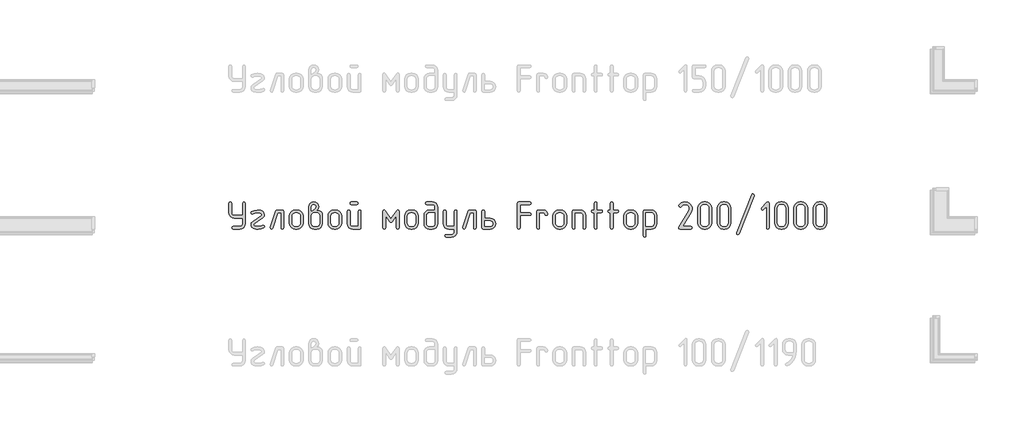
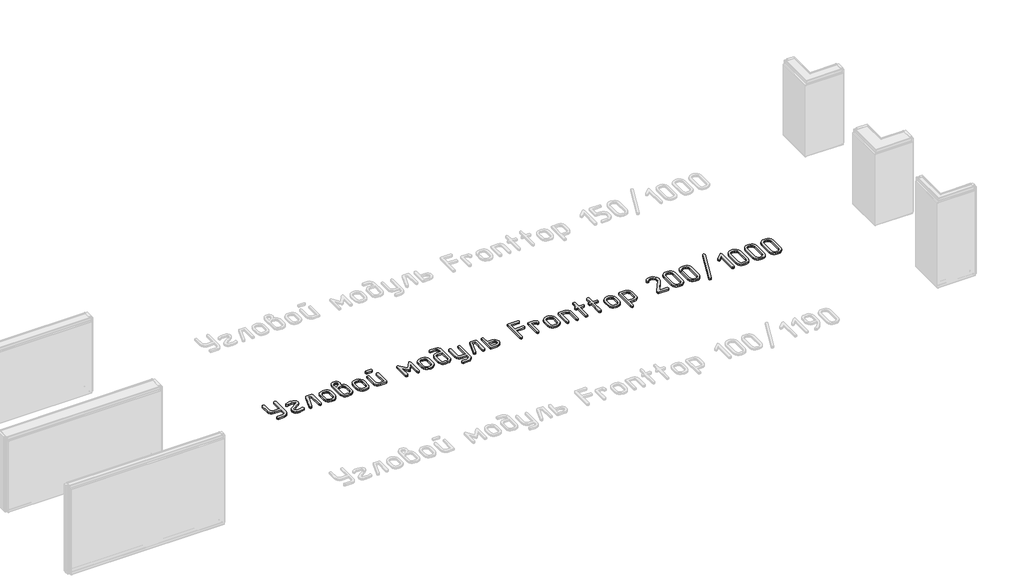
# One storey, part 31 of 37: 1 proxy.
"""IFC4 building model written with IfcOpenShell, lengths in millimetres."""

from ifc_helpers import new_model, si_unit, origin, origin_with_axes, place, context, project, spatial, polyline, outline, extrude, element, save

model = new_model("IFC4")

# Units and contexts
model_context = context("Model", 3, world=origin())
ifc_project = project(units=[si_unit("LENGTHUNIT", "METRE", prefix="MILLI")], contexts=[model_context])

# Site, building, storey
site = spatial("IfcSite", under=ifc_project)
building = spatial("IfcBuilding", under=site)
storey = spatial("IfcBuildingStorey", under=building, Name="Этаж 01", Elevation=0.0)

# Proxy
placement = place(None, origin())
element("IfcBuildingElementProxy", 1, Name="300 мм ГОСТ 2.304", ObjectType="300 мм ГОСТ 2.304", at=placement, inside=storey, context=model_context, shape_type="SweptSolid", body=[
    extrude(outline(polyline([(64282.5947081, -23608.7261154), (64192.9398643, -23608.7261154), (64169.869135, -23604.3522505), (64150.5152523, -23591.2306559), (64137.3936577, -23571.8767732), (64133.0197928, -23548.8060439), (64133.0197928, -23444.2838139), (64137.4124296, -23433.1332743), (64148.3377058, -23428.9659009), (64158.6247356, -23432.9080109), (64163.205092, -23444.2838139), (64163.205092, -23548.8060439), (64165.3357086, -23560.4540402), (64171.7275583, -23570.0183499), (64181.2918679, -23576.4101996), (64192.9398643, -23578.5408162), (64282.5947081, -23578.5408162), (64282.5947081, -23444.2838139), (64286.949801, -23433.1332743), (64297.4620942, -23428.9659009), (64307.9368436, -23432.9080109), (64312.3294804, -23444.2838139), (64312.3294804, -23668.19566), (64307.9556155, -23691.6042844), (64294.8340209, -23711.0707988), (64275.8180333, -23723.8544983), (64252.8599358, -23728.1157314), (64178.0724781, -23728.1157314), (64167.147202, -23723.7606385), (64163.205092, -23713.2483453), (64166.9219385, -23702.736052), (64178.0724781, -23698.3809591), (64252.8599358, -23698.3809591), (64264.2263528, -23696.1940267), (64273.8469783, -23689.6332294), (64280.4077756, -23679.8999722), (64282.5947081, -23668.19566), (64282.5947081, -23608.7261154)])), origin_with_axes(), (0.0, 0.0, 1.0), 20.0),
    extrude(outline(polyline([(64514.9914765, -23714.524838), (64485.4444237, -23725.0746752), (64451.6173658, -23728.5662583), (64430.8180428, -23727.4774851), (64413.0973199, -23724.5866044), (64396.8408093, -23719.4524755), (64384.8643037, -23709.3062353), (64377.4869265, -23695.6496401), (64375.0278008, -23679.984446), (64378.9699108, -23660.7619669), (64391.2467675, -23644.618088), (64486.5331969, -23578.991343), (64491.4139045, -23569.8306304), (64487.5844263, -23560.4071103), (64476.0959915, -23554.0621905), (64442.3815653, -23549.7070976), (64416.2510079, -23552.4290307), (64397.32888, -23560.5948299), (64388.1681673, -23564.1239569), (64377.693418, -23559.5436005), (64373.3007812, -23548.355517), (64379.4579815, -23537.0172579), (64408.0664367, -23524.777945), (64445.0096386, -23520.4228521), (64450.2657853, -23520.4228521), (64479.1370478, -23523.9144352), (64501.85111, -23533.7509382), (64516.7184961, -23549.0313073), (64521.9746427, -23568.9295767), (64517.7134096, -23586.6315276), (64504.9297101, -23602.193476), (64409.5681929, -23668.19566), (64404.3871341, -23679.6090069), (64408.1039806, -23689.8584928), (64417.9029396, -23695.7528858), (64434.3096259, -23697.5174493), (64451.9928049, -23698.3809591), (64478.4612575, -23696.2034127), (64501.0251441, -23687.8686659), (64508.4588371, -23686.1416463), (64519.1588499, -23690.7220026), (64523.3262233, -23701.9100861), (64521.2425366, -23709.1936036), (64514.9914765, -23714.524838)])), origin_with_axes(), (0.0, 0.0, 1.0), 20.0),
    extrude(outline(polyline([(64734.3229662, -23713.2483453), (64730.1555928, -23724.3988849), (64719.45558, -23728.1157314), (64708.9432868, -23724.1736215), (64704.5881939, -23713.2483453), (64704.5881939, -23548.8060439), (64670.0478018, -23548.8060439), (64614.0322964, -23718.0539651), (64608.5884303, -23725.4876581), (64600.5164908, -23728.1157314), (64589.7789341, -23724.1736215), (64585.1985778, -23713.6988721), (64586.0996315, -23708.4427255), (64645.1186493, -23529.133038), (64650.4498837, -23521.5867132), (64659.5355086, -23519.0712716), (64719.45558, -23519.0712716), (64730.6061197, -23522.7881181), (64734.3229662, -23533.9386577), (64734.3229662, -23713.2483453)])), origin_with_axes(), (0.0, 0.0, 1.0), 20.0),
    extrude(outline(polyline([(64945.7702359, -23662.4889865), (64940.9646162, -23687.9812976), (64926.5477569, -23709.3437792), (64905.5231704, -23723.4227434), (64880.143491, -23728.1157314), (64862.1975047, -23728.1157314), (64836.7615094, -23723.4227434), (64815.4177998, -23709.3437792), (64801.0009405, -23687.9812976), (64796.1953207, -23662.4889865), (64796.1953207, -23584.6980165), (64801.0009405, -23559.5436005), (64815.4177998, -23538.2937506), (64837.1744924, -23523.8768913), (64862.1975047, -23519.0712716), (64880.143491, -23519.0712716), (64905.288521, -23523.8862773), (64926.510213, -23538.3312945), (64940.9552302, -23559.5529865), (64945.7702359, -23584.6980165), (64945.7702359, -23662.4889865)]), holes=[polyline([(64916.0354636, -23662.4889865), (64916.0354636, -23584.6980165), (64913.4073903, -23570.9194036), (64905.5231704, -23559.3183371), (64893.9221039, -23551.4341172), (64880.143491, -23548.8060439), (64862.1975047, -23548.8060439), (64848.4282777, -23551.4341172), (64836.8553692, -23559.3183371), (64828.9993072, -23570.9194036), (64826.3806199, -23584.6980165), (64826.3806199, -23662.4889865), (64828.9993072, -23676.2675994), (64836.8553692, -23687.8686659), (64848.4282777, -23695.7528858), (64862.1975047, -23698.3809591), (64880.143491, -23698.3809591), (64893.9221039, -23695.7528858), (64905.5231704, -23687.8686659), (64913.4073903, -23676.2675994), (64916.0354636, -23662.4889865)])]), origin_with_axes(), (0.0, 0.0, 1.0), 20.0),
    extrude(outline(polyline([(65097.2974342, -23519.9723253), (65122.7897453, -23524.2335584), (65142.3501195, -23537.0172579), (65153.5006592, -23555.057104), (65157.2175057, -23578.5408162), (65157.2175057, -23668.19566), (65152.8436408, -23691.6042844), (65139.7220462, -23711.0707988), (65120.5934269, -23723.8544983), (65097.2974342, -23728.1157314), (65067.5626619, -23728.1157314), (65044.4919326, -23723.8544983), (65025.1380499, -23711.0707988), (65012.0164553, -23691.6042844), (65007.6425905, -23668.19566), (65007.6425905, -23483.2543867), (65011.9038236, -23460.3901489), (65024.6875231, -23442.5567943), (65041.4133325, -23432.3636243), (65061.8559884, -23428.9659009), (65081.9607493, -23432.3636243), (65098.573927, -23442.5567943), (65111.0760472, -23460.2775172), (65115.2434206, -23482.8038599), (65111.0760472, -23504.8421318), (65097.2974342, -23519.9723253)]), holes=[polyline([(65127.4827334, -23668.19566), (65127.4827334, -23578.5408162), (65125.295801, -23567.1743991), (65118.7350037, -23557.5537736), (65109.0017464, -23550.9929763), (65097.2974342, -23548.8060439), (65067.5626619, -23548.8060439), (65055.9146656, -23550.9929763), (65046.3503559, -23557.5537736), (65039.9585062, -23567.1743991), (65037.8278896, -23578.5408162), (65037.8278896, -23668.19566), (65039.9585062, -23679.8999722), (65046.3503559, -23689.6332294), (65055.9146656, -23696.1940267), (65067.5626619, -23698.3809591), (65097.2974342, -23698.3809591), (65109.0017464, -23696.1940267), (65118.7350037, -23689.6332294), (65125.295801, -23679.8999722), (65127.4827334, -23668.19566)]), polyline([(65037.8278896, -23529.133038), (65044.8110558, -23525.0032085), (65050.0672025, -23521.248818), (65060.1289688, -23514.0403884), (65067.5626619, -23508.5589783), (65079.8019748, -23497.671246), (65085.5086482, -23483.2543867), (65083.7065408, -23473.1644624), (65078.3002186, -23465.7213834), (65070.4723145, -23461.1316411), (65061.4054616, -23459.601727), (65052.4512404, -23461.1316411), (65044.8110558, -23465.7213834), (65039.5736812, -23473.1644624), (65037.8278896, -23483.2543867), (65037.8278896, -23529.133038)])]), origin_with_axes(), (0.0, 0.0, 1.0), 20.0),
    extrude(outline(polyline([(65368.6647755, -23662.4889865), (65363.8591557, -23687.9812976), (65349.4422964, -23709.3437792), (65328.4177099, -23723.4227434), (65303.0380305, -23728.1157314), (65285.0920442, -23728.1157314), (65259.6560489, -23723.4227434), (65238.3123393, -23709.3437792), (65223.89548, -23687.9812976), (65219.0898602, -23662.4889865), (65219.0898602, -23584.6980165), (65223.89548, -23559.5436005), (65238.3123393, -23538.2937506), (65260.0690319, -23523.8768913), (65285.0920442, -23519.0712716), (65303.0380305, -23519.0712716), (65328.1830605, -23523.8862773), (65349.4047525, -23538.3312945), (65363.8497697, -23559.5529865), (65368.6647755, -23584.6980165), (65368.6647755, -23662.4889865)]), holes=[polyline([(65338.9300032, -23662.4889865), (65338.9300032, -23584.6980165), (65336.3019298, -23570.9194036), (65328.4177099, -23559.3183371), (65316.8166434, -23551.4341172), (65303.0380305, -23548.8060439), (65285.0920442, -23548.8060439), (65271.3228172, -23551.4341172), (65259.7499087, -23559.3183371), (65251.8938467, -23570.9194036), (65249.2751594, -23584.6980165), (65249.2751594, -23662.4889865), (65251.8938467, -23676.2675994), (65259.7499087, -23687.8686659), (65271.3228172, -23695.7528858), (65285.0920442, -23698.3809591), (65303.0380305, -23698.3809591), (65316.8166434, -23695.7528858), (65328.4177099, -23687.8686659), (65336.3019298, -23676.2675994), (65338.9300032, -23662.4889865)])]), origin_with_axes(), (0.0, 0.0, 1.0), 20.0),
    extrude(outline(polyline([(65535.5098868, -23459.1512001), (65475.5898153, -23459.1512001), (65464.6645391, -23454.7961072), (65460.7224291, -23444.2838139), (65464.4392757, -23433.5838012), (65475.5898153, -23428.9659009), (65535.5098868, -23428.9659009), (65546.6604264, -23433.3585378), (65550.3772729, -23444.2838139), (65546.4351629, -23454.5708438), (65535.5098868, -23459.1512001)])), origin_with_axes(), (0.0, 0.0, 1.0), 20.0),
    extrude(outline(polyline([(65580.1120452, -23713.2483453), (65576.3951987, -23724.3988849), (65565.2446591, -23728.1157314), (65490.4572014, -23728.1157314), (65467.3864722, -23723.8544983), (65448.0325894, -23711.0707988), (65434.9109948, -23691.6042844), (65430.53713, -23668.19566), (65430.53713, -23533.9386577), (65434.9297668, -23523.0133815), (65445.855043, -23519.0712716), (65456.1420728, -23522.7881181), (65460.7224291, -23533.9386577), (65460.7224291, -23668.19566), (65462.8530457, -23679.8999722), (65469.2448954, -23689.6332294), (65478.8092051, -23696.1940267), (65490.4572014, -23698.3809591), (65550.3772729, -23698.3809591), (65550.3772729, -23533.9386577), (65554.7323658, -23523.0133815), (65565.2446591, -23519.0712716), (65575.7194084, -23522.7881181), (65580.1120452, -23533.9386577), (65580.1120452, -23713.2483453)])), origin_with_axes(), (0.0, 0.0, 1.0), 20.0),
    extrude(outline(polyline([(65999.1020187, -23713.2483453), (65994.7093818, -23724.1736215), (65984.2346325, -23728.1157314), (65973.4970758, -23724.3988849), (65969.3672464, -23713.2483453), (65969.3672464, -23580.2678358), (65921.6864877, -23647.2461613), (65915.5480594, -23653.1030104), (65909.4471749, -23655.0552934), (65903.121027, -23653.1030104), (65897.207862, -23647.2461613), (65849.9776303, -23580.2678358), (65849.9776303, -23713.2483453), (65845.3972739, -23724.1736215), (65835.1102441, -23728.1157314), (65823.9597045, -23724.3988849), (65819.7923311, -23713.2483453), (65819.7923311, -23533.9386577), (65823.5091776, -23521.0235546), (65832.9326977, -23516.4431983), (65840.666742, -23518.6395167), (65847.349557, -23525.2284719), (65909.4471749, -23612.6306814), (65971.9953197, -23525.2284719), (65978.7532225, -23518.6395167), (65985.9616521, -23516.4431983), (65995.3851721, -23521.0235546), (65999.1020187, -23533.9386577), (65999.1020187, -23713.2483453)])), origin_with_axes(), (0.0, 0.0, 1.0), 20.0),
    extrude(outline(polyline([(66209.6482347, -23662.4889865), (66204.8426149, -23687.9812976), (66190.4257556, -23709.3437792), (66169.4011692, -23723.4227434), (66144.0214898, -23728.1157314), (66126.0755035, -23728.1157314), (66100.6395082, -23723.4227434), (66079.2957985, -23709.3437792), (66064.8789392, -23687.9812976), (66060.0733195, -23662.4889865), (66060.0733195, -23584.6980165), (66064.8789392, -23559.5436005), (66079.2957985, -23538.2937506), (66101.0524911, -23523.8768913), (66126.0755035, -23519.0712716), (66144.0214898, -23519.0712716), (66169.1665198, -23523.8862773), (66190.3882117, -23538.3312945), (66204.833229, -23559.5529865), (66209.6482347, -23584.6980165), (66209.6482347, -23662.4889865)]), holes=[polyline([(66179.9134624, -23662.4889865), (66179.9134624, -23584.6980165), (66177.2853891, -23570.9194036), (66169.4011692, -23559.3183371), (66157.8001027, -23551.4341172), (66144.0214898, -23548.8060439), (66126.0755035, -23548.8060439), (66112.3062765, -23551.4341172), (66100.733368, -23559.3183371), (66092.877306, -23570.9194036), (66090.2586186, -23584.6980165), (66090.2586186, -23662.4889865), (66092.877306, -23676.2675994), (66100.733368, -23687.8686659), (66112.3062765, -23695.7528858), (66126.0755035, -23698.3809591), (66144.0214898, -23698.3809591), (66157.8001027, -23695.7528858), (66169.4011692, -23687.8686659), (66177.2853891, -23676.2675994), (66179.9134624, -23662.4889865)])]), origin_with_axes(), (0.0, 0.0, 1.0), 20.0),
    extrude(outline(polyline([(66391.3607322, -23519.0712716), (66391.3607322, -23488.8859724), (66389.1737997, -23477.2379761), (66382.6130024, -23467.6736664), (66372.8797452, -23461.2818167), (66361.175433, -23459.1512001), (66301.7058884, -23459.1512001), (66290.7806122, -23454.7961072), (66286.8385022, -23444.2838139), (66290.5553488, -23433.5838012), (66301.7058884, -23428.9659009), (66361.175433, -23428.9659009), (66384.4714257, -23433.3397658), (66403.600045, -23446.4613604), (66416.7216396, -23465.8152431), (66421.0955045, -23488.8859724), (66421.0955045, -23668.19566), (66416.7216396, -23691.6042844), (66403.600045, -23711.0707988), (66384.4714257, -23723.8544983), (66361.175433, -23728.1157314), (66331.4406607, -23728.1157314), (66308.3699314, -23723.8544983), (66289.0160487, -23711.0707988), (66275.8944541, -23691.6042844), (66271.5205892, -23668.19566), (66271.5205892, -23578.5408162), (66275.8944541, -23555.8079821), (66289.0160487, -23536.566731), (66308.3699314, -23523.4451364), (66331.4406607, -23519.0712716), (66391.3607322, -23519.0712716)]), holes=[polyline([(66391.3607322, -23548.8060439), (66331.4406607, -23548.8060439), (66319.7926643, -23550.9929763), (66310.2283547, -23557.5537736), (66303.836505, -23567.1743991), (66301.7058884, -23578.5408162), (66301.7058884, -23668.19566), (66303.836505, -23679.8999722), (66310.2283547, -23689.6332294), (66319.7926643, -23696.1940267), (66331.4406607, -23698.3809591), (66361.175433, -23698.3809591), (66372.8797452, -23696.1940267), (66382.6130024, -23689.6332294), (66389.1737997, -23679.8999722), (66391.3607322, -23668.19566), (66391.3607322, -23548.8060439)])]), origin_with_axes(), (0.0, 0.0, 1.0), 20.0),
    extrude(outline(polyline([(66602.8080019, -23728.1157314), (66542.8879304, -23728.1157314), (66519.8172012, -23723.8544983), (66500.4633184, -23711.0707988), (66487.3417238, -23691.6042844), (66482.967859, -23668.19566), (66482.967859, -23533.9386577), (66487.3604958, -23523.0133815), (66498.285772, -23519.0712716), (66508.5728018, -23522.7881181), (66513.1531581, -23533.9386577), (66513.1531581, -23668.19566), (66515.2837747, -23679.8999722), (66521.6756244, -23689.6332294), (66531.2399341, -23696.1940267), (66542.8879304, -23698.3809591), (66602.8080019, -23698.3809591), (66602.8080019, -23533.9386577), (66607.1630948, -23523.0133815), (66617.6753881, -23519.0712716), (66628.1501374, -23522.7881181), (66632.5427742, -23533.9386577), (66632.5427742, -23757.8505038), (66628.2815411, -23781.1464965), (66615.4978416, -23800.2751158), (66596.0313272, -23813.3967104), (66572.6227028, -23817.7705752), (66513.1531581, -23817.7705752), (66502.2278819, -23813.3779384), (66498.285772, -23802.9031891), (66502.0026185, -23792.3908958), (66513.1531581, -23788.0358029), (66572.6227028, -23788.0358029), (66584.327015, -23785.8488705), (66594.0602722, -23779.2880732), (66600.6210695, -23769.554816), (66602.8080019, -23757.8505038), (66602.8080019, -23728.1157314)])), origin_with_axes(), (0.0, 0.0, 1.0), 20.0),
    extrude(outline(polyline([(66843.990044, -23713.2483453), (66839.8226706, -23724.3988849), (66829.1226578, -23728.1157314), (66818.6103646, -23724.1736215), (66814.2552717, -23713.2483453), (66814.2552717, -23548.8060439), (66779.7148796, -23548.8060439), (66723.6993742, -23718.0539651), (66718.255508, -23725.4876581), (66710.1835686, -23728.1157314), (66699.4460119, -23724.1736215), (66694.8656556, -23713.6988721), (66695.7667093, -23708.4427255), (66754.7857271, -23529.133038), (66760.1169615, -23521.5867132), (66769.2025864, -23519.0712716), (66829.1226578, -23519.0712716), (66840.2731974, -23522.7881181), (66843.990044, -23533.9386577), (66843.990044, -23713.2483453)])), origin_with_axes(), (0.0, 0.0, 1.0), 20.0),
    extrude(outline(polyline([(66936.0476976, -23608.7261154), (66995.5172423, -23608.7261154), (67021.0095534, -23613.3252436), (67040.5699276, -23627.1226285), (67051.7204672, -23645.4628258), (67055.4373137, -23668.19566), (67051.8330989, -23690.9472661), (67041.0204544, -23709.3437792), (67021.1221851, -23723.4227434), (66995.5172423, -23728.1157314), (66921.1803115, -23728.1157314), (66909.6918767, -23724.3988849), (66905.8623985, -23713.2483453), (66905.8623985, -23533.9386577), (66910.2550353, -23523.0133815), (66921.1803115, -23519.0712716), (66931.4673413, -23522.7881181), (66936.0476976, -23533.9386577), (66936.0476976, -23608.7261154)]), holes=[polyline([(66936.0476976, -23638.4608877), (66936.0476976, -23698.3809591), (66995.5172423, -23698.3809591), (67008.3009417, -23696.1377108), (67017.8183215, -23689.407966), (67023.7314864, -23679.6183929), (67025.7025414, -23668.19566), (67023.8441182, -23657.1577521), (67018.2688483, -23647.6216003), (67008.6388369, -23640.7510658), (66995.5172423, -23638.4608877), (66936.0476976, -23638.4608877)])]), origin_with_axes(), (0.0, 0.0, 1.0), 20.0),
    extrude(outline(polyline([(67325.3028988, -23548.355517), (67429.8251287, -23548.355517), (67440.9756683, -23552.5228904), (67444.6925149, -23563.2229032), (67440.7504049, -23573.9604598), (67429.8251287, -23578.5408162), (67325.3028988, -23578.5408162), (67325.3028988, -23713.2483453), (67321.1355254, -23724.3988849), (67310.4355126, -23728.1157314), (67299.697956, -23724.1736215), (67295.1175996, -23713.2483453), (67295.1175996, -23444.2838139), (67298.9470779, -23432.7953792), (67310.4355126, -23428.9659009), (67429.8251287, -23428.9659009), (67440.9756683, -23433.3585378), (67444.6925149, -23444.2838139), (67440.7504049, -23454.5708438), (67429.8251287, -23459.1512001), (67325.3028988, -23459.1512001), (67325.3028988, -23548.355517)])), origin_with_axes(), (0.0, 0.0, 1.0), 20.0),
    extrude(outline(polyline([(67626.4050123, -23563.67343), (67622.2376389, -23574.8239697), (67611.5376262, -23578.5408162), (67600.8000695, -23574.5987062), (67596.2197132, -23563.67343), (67592.0523398, -23553.1986807), (67581.352327, -23548.8060439), (67536.7501685, -23548.8060439), (67536.7501685, -23713.2483453), (67532.5827951, -23724.3988849), (67521.8827824, -23728.1157314), (67511.1452257, -23724.1736215), (67506.5648694, -23713.2483453), (67506.5648694, -23533.9386577), (67510.3943476, -23522.7881181), (67521.8827824, -23519.0712716), (67581.352327, -23519.0712716), (67598.8477865, -23522.5628547), (67613.3021897, -23532.1740942), (67622.9134292, -23546.403234), (67626.4050123, -23563.67343)])), origin_with_axes(), (0.0, 0.0, 1.0), 20.0),
    extrude(outline(polyline([(67833.947716, -23662.4889865), (67829.1420963, -23687.9812976), (67814.7252369, -23709.3437792), (67793.7006505, -23723.4227434), (67768.3209711, -23728.1157314), (67750.3749848, -23728.1157314), (67724.9389895, -23723.4227434), (67703.5952798, -23709.3437792), (67689.1784205, -23687.9812976), (67684.3728008, -23662.4889865), (67684.3728008, -23584.6980165), (67689.1784205, -23559.5436005), (67703.5952798, -23538.2937506), (67725.3519725, -23523.8768913), (67750.3749848, -23519.0712716), (67768.3209711, -23519.0712716), (67793.4660011, -23523.8862773), (67814.687693, -23538.3312945), (67829.1327103, -23559.5529865), (67833.947716, -23584.6980165), (67833.947716, -23662.4889865)]), holes=[polyline([(67804.2129437, -23662.4889865), (67804.2129437, -23584.6980165), (67801.5848704, -23570.9194036), (67793.7006505, -23559.3183371), (67782.099584, -23551.4341172), (67768.3209711, -23548.8060439), (67750.3749848, -23548.8060439), (67736.6057578, -23551.4341172), (67725.0328493, -23559.3183371), (67717.1767873, -23570.9194036), (67714.5580999, -23584.6980165), (67714.5580999, -23662.4889865), (67717.1767873, -23676.2675994), (67725.0328493, -23687.8686659), (67736.6057578, -23695.7528858), (67750.3749848, -23698.3809591), (67768.3209711, -23698.3809591), (67782.099584, -23695.7528858), (67793.7006505, -23687.8686659), (67801.5848704, -23676.2675994), (67804.2129437, -23662.4889865)])]), origin_with_axes(), (0.0, 0.0, 1.0), 20.0),
    extrude(outline(polyline([(68045.3949858, -23713.2483453), (68041.2276124, -23724.3988849), (68030.5275996, -23728.1157314), (68020.0153064, -23724.1736215), (68015.6602135, -23713.2483453), (68015.6602135, -23578.5408162), (68013.473281, -23567.1743991), (68006.9124837, -23557.5537736), (67997.1792265, -23550.9929763), (67985.4749143, -23548.8060439), (67926.0053697, -23548.8060439), (67926.0053697, -23713.2483453), (67921.8379963, -23724.3988849), (67911.1379835, -23728.1157314), (67900.4004269, -23724.1736215), (67895.8200705, -23713.2483453), (67895.8200705, -23533.9386577), (67899.6495488, -23522.7881181), (67911.1379835, -23519.0712716), (67985.4749143, -23519.0712716), (68008.770907, -23523.3325047), (68027.8995263, -23536.1162042), (68041.0211209, -23555.4700869), (68045.3949858, -23578.5408162), (68045.3949858, -23713.2483453)])), origin_with_axes(), (0.0, 0.0, 1.0), 20.0),
    extrude(outline(polyline([(68167.1874117, -23519.0712716), (68212.2400971, -23519.0712716), (68223.3906367, -23523.238645), (68227.1074832, -23533.9386577), (68223.1653733, -23544.2256875), (68212.2400971, -23548.8060439), (68167.1874117, -23548.8060439), (68167.1874117, -23713.2483453), (68163.0200384, -23724.3988849), (68152.3200256, -23728.1157314), (68141.8077324, -23724.1736215), (68137.4526394, -23713.2483453), (68137.4526394, -23548.8060439), (68122.5852533, -23548.8060439), (68111.4347137, -23544.450951), (68107.2673403, -23533.9386577), (68111.2094502, -23523.4639084), (68122.5852533, -23519.0712716), (68137.4526394, -23519.0712716), (68137.4526394, -23444.2838139), (68141.8077324, -23433.1332743), (68152.3200256, -23428.9659009), (68162.7947749, -23432.9080109), (68167.1874117, -23444.2838139), (68167.1874117, -23519.0712716)])), origin_with_axes(), (0.0, 0.0, 1.0), 20.0),
    extrude(outline(polyline([(68344.9953431, -23519.0712716), (68390.0480284, -23519.0712716), (68401.1985681, -23523.238645), (68404.9154146, -23533.9386577), (68400.9733046, -23544.2256875), (68390.0480284, -23548.8060439), (68344.9953431, -23548.8060439), (68344.9953431, -23713.2483453), (68340.8279697, -23724.3988849), (68330.127957, -23728.1157314), (68319.6156637, -23724.1736215), (68315.2605708, -23713.2483453), (68315.2605708, -23548.8060439), (68300.3931847, -23548.8060439), (68289.2426451, -23544.450951), (68285.0752717, -23533.9386577), (68289.0173816, -23523.4639084), (68300.3931847, -23519.0712716), (68315.2605708, -23519.0712716), (68315.2605708, -23444.2838139), (68319.6156637, -23433.1332743), (68330.127957, -23428.9659009), (68340.6027063, -23432.9080109), (68344.9953431, -23444.2838139), (68344.9953431, -23519.0712716)])), origin_with_axes(), (0.0, 0.0, 1.0), 20.0),
    extrude(outline(polyline([(68612.4581183, -23662.4889865), (68607.6524985, -23687.9812976), (68593.2356392, -23709.3437792), (68572.2110527, -23723.4227434), (68546.8313734, -23728.1157314), (68528.885387, -23728.1157314), (68503.4493918, -23723.4227434), (68482.1056821, -23709.3437792), (68467.6888228, -23687.9812976), (68462.883203, -23662.4889865), (68462.883203, -23584.6980165), (68467.6888228, -23559.5436005), (68482.1056821, -23538.2937506), (68503.8623747, -23523.8768913), (68528.885387, -23519.0712716), (68546.8313734, -23519.0712716), (68571.9764033, -23523.8862773), (68593.1980953, -23538.3312945), (68607.6431126, -23559.5529865), (68612.4581183, -23584.6980165), (68612.4581183, -23662.4889865)]), holes=[polyline([(68582.723346, -23662.4889865), (68582.723346, -23584.6980165), (68580.0952727, -23570.9194036), (68572.2110527, -23559.3183371), (68560.6099863, -23551.4341172), (68546.8313734, -23548.8060439), (68528.885387, -23548.8060439), (68515.1161601, -23551.4341172), (68503.5432515, -23559.3183371), (68495.6871895, -23570.9194036), (68493.0685022, -23584.6980165), (68493.0685022, -23662.4889865), (68495.6871895, -23676.2675994), (68503.5432515, -23687.8686659), (68515.1161601, -23695.7528858), (68528.885387, -23698.3809591), (68546.8313734, -23698.3809591), (68560.6099863, -23695.7528858), (68572.2110527, -23687.8686659), (68580.0952727, -23676.2675994), (68582.723346, -23662.4889865)])]), origin_with_axes(), (0.0, 0.0, 1.0), 20.0),
    extrude(outline(polyline([(68704.515772, -23728.1157314), (68704.515772, -23802.9031891), (68700.3483986, -23814.0537287), (68689.6483858, -23817.7705752), (68678.9108291, -23813.8284653), (68674.3304728, -23802.9031891), (68674.3304728, -23533.9386577), (68678.1599511, -23522.7881181), (68689.6483858, -23519.0712716), (68763.9853166, -23519.0712716), (68787.2813093, -23523.3325047), (68806.4099286, -23536.1162042), (68819.5315232, -23555.4700869), (68823.9053881, -23578.5408162), (68823.9053881, -23668.19566), (68819.5315232, -23691.6042844), (68806.4099286, -23711.0707988), (68787.2813093, -23723.8544983), (68763.9853166, -23728.1157314), (68704.515772, -23728.1157314)]), holes=[polyline([(68704.515772, -23698.3809591), (68763.9853166, -23698.3809591), (68775.6896288, -23696.1940267), (68785.422886, -23689.6332294), (68791.9836833, -23679.8999722), (68794.1706157, -23668.19566), (68794.1706157, -23578.5408162), (68791.9836833, -23567.1743991), (68785.422886, -23557.5537736), (68775.6896288, -23550.9929763), (68763.9853166, -23548.8060439), (68704.515772, -23548.8060439), (68704.515772, -23698.3809591)])]), origin_with_axes(), (0.0, 0.0, 1.0), 20.0),
    extrude(outline(polyline([(69202.1977691, -23544.450951), (69105.5597591, -23698.3809591), (69198.293203, -23698.3809591), (69209.4437427, -23702.5483325), (69213.1605892, -23713.2483453), (69209.2184792, -23723.5353751), (69198.293203, -23728.1157314), (69078.9035869, -23728.1157314), (69066.7393619, -23725.1685349), (69062.6846202, -23716.3269455), (69066.2137473, -23704.9135985), (69176.4426507, -23529.133038), (69182.0742363, -23506.8319587), (69178.3573898, -23488.3603577), (69167.2068502, -23473.1926204), (69150.368409, -23462.6615552), (69130.4889116, -23459.1512001), (69118.7939854, -23460.6811142), (69108.1878324, -23465.2708565), (69091.1428998, -23481.9028062), (69086.1307886, -23487.1401809), (69078.9035869, -23488.8859724), (69068.3912937, -23484.7561429), (69063.5856739, -23474.4691131), (69066.2137473, -23466.1343663), (69078.2465686, -23451.1168046), (69093.3204463, -23439.2529308), (69110.3653789, -23431.5376584), (69128.3113652, -23428.9659009), (69160.3363157, -23434.8790659), (69187.3303829, -23452.6185607), (69205.6893522, -23477.9982401), (69210.2790945, -23492.3212397), (69211.8090086, -23507.7330124), (69209.4061988, -23526.5237366), (69202.1977691, -23544.450951)])), origin_with_axes(), (0.0, 0.0, 1.0), 20.0),
    extrude(outline(polyline([(69424.607859, -23662.4889865), (69419.8022392, -23687.9812976), (69405.3853799, -23709.3437792), (69384.3607934, -23723.4227434), (69358.981114, -23728.1157314), (69341.0351277, -23728.1157314), (69315.5991324, -23723.4227434), (69294.2554228, -23709.3437792), (69279.8385635, -23687.9812976), (69275.0329437, -23662.4889865), (69275.0329437, -23495.0431727), (69279.8385635, -23469.8887568), (69294.2554228, -23448.6389069), (69315.786852, -23433.8841524), (69341.0351277, -23428.9659009), (69358.981114, -23428.9659009), (69384.126144, -23433.7809067), (69405.347836, -23448.2259239), (69419.7928532, -23469.5602476), (69424.607859, -23495.0431727), (69424.607859, -23662.4889865)]), holes=[polyline([(69394.8730866, -23662.4889865), (69394.8730866, -23495.0431727), (69392.2450133, -23481.2645598), (69384.3607934, -23469.6634933), (69372.7597269, -23461.7792734), (69358.981114, -23459.1512001), (69341.0351277, -23459.1512001), (69327.2659007, -23461.7792734), (69315.6929922, -23469.6634933), (69307.8369302, -23481.2645598), (69305.2182429, -23495.0431727), (69305.2182429, -23662.4889865), (69307.8369302, -23676.2675994), (69315.6929922, -23687.8686659), (69327.2659007, -23695.7528858), (69341.0351277, -23698.3809591), (69358.981114, -23698.3809591), (69372.7597269, -23695.7528858), (69384.3607934, -23687.8686659), (69392.2450133, -23676.2675994), (69394.8730866, -23662.4889865)])]), origin_with_axes(), (0.0, 0.0, 1.0), 20.0),
    extrude(outline(polyline([(69636.0551287, -23662.4889865), (69631.2495089, -23687.9812976), (69616.8326496, -23709.3437792), (69595.8080632, -23723.4227434), (69570.4283838, -23728.1157314), (69552.4823974, -23728.1157314), (69527.0464022, -23723.4227434), (69505.7026925, -23709.3437792), (69491.2858332, -23687.9812976), (69486.4802135, -23662.4889865), (69486.4802135, -23495.0431727), (69491.2858332, -23469.8887568), (69505.7026925, -23448.6389069), (69527.2341217, -23433.8841524), (69552.4823974, -23428.9659009), (69570.4283838, -23428.9659009), (69595.5734138, -23433.7809067), (69616.7951057, -23448.2259239), (69631.240123, -23469.5602476), (69636.0551287, -23495.0431727), (69636.0551287, -23662.4889865)]), holes=[polyline([(69606.3203564, -23662.4889865), (69606.3203564, -23495.0431727), (69603.6922831, -23481.2645598), (69595.8080632, -23469.6634933), (69584.2069967, -23461.7792734), (69570.4283838, -23459.1512001), (69552.4823974, -23459.1512001), (69538.7131705, -23461.7792734), (69527.140262, -23469.6634933), (69519.2841999, -23481.2645598), (69516.6655126, -23495.0431727), (69516.6655126, -23662.4889865), (69519.2841999, -23676.2675994), (69527.140262, -23687.8686659), (69538.7131705, -23695.7528858), (69552.4823974, -23698.3809591), (69570.4283838, -23698.3809591), (69584.2069967, -23695.7528858), (69595.8080632, -23687.8686659), (69603.6922831, -23676.2675994), (69606.3203564, -23662.4889865)])]), origin_with_axes(), (0.0, 0.0, 1.0), 20.0),
    extrude(outline(polyline([(69891.6540301, -23359.8851168), (69727.2117287, -23778.4245634), (69721.5425991, -23785.4077296), (69713.6959231, -23788.0358029), (69702.733103, -23783.8684295), (69697.9274832, -23773.1684168), (69698.8285369, -23767.4617433), (69863.2708383, -23348.9973845), (69868.9399679, -23341.9391305), (69876.7866439, -23339.3110572), (69887.749464, -23343.703694), (69892.5550838, -23354.1784433), (69891.6540301, -23359.8851168)])), origin_with_axes(), (0.0, 0.0, 1.0), 20.0),
    extrude(outline(polyline([(70056.697034, -23713.2483453), (70052.5296606, -23724.3988849), (70041.8296478, -23728.1157314), (70031.542618, -23724.1736215), (70026.9622616, -23713.2483453), (70026.9622616, -23480.1757866), (69992.4218696, -23514.2656518), (69982.3601032, -23519.0712716), (69971.6225465, -23514.4909152), (69967.0421902, -23503.7533586), (69971.8478099, -23493.3161531), (70031.3173546, -23433.7715207), (70044.4577211, -23427.2388813), (70053.2054508, -23431.6315182), (70056.697034, -23444.2838139), (70056.697034, -23713.2483453)])), origin_with_axes(), (0.0, 0.0, 1.0), 20.0),
    extrude(outline(polyline([(70265.5913182, -23662.4889865), (70260.7856984, -23687.9812976), (70246.3688391, -23709.3437792), (70225.3442527, -23723.4227434), (70199.9645733, -23728.1157314), (70182.0185869, -23728.1157314), (70156.5825917, -23723.4227434), (70135.238882, -23709.3437792), (70120.8220227, -23687.9812976), (70116.016403, -23662.4889865), (70116.016403, -23495.0431727), (70120.8220227, -23469.8887568), (70135.238882, -23448.6389069), (70156.7703112, -23433.8841524), (70182.0185869, -23428.9659009), (70199.9645733, -23428.9659009), (70225.1096033, -23433.7809067), (70246.3312952, -23448.2259239), (70260.7763125, -23469.5602476), (70265.5913182, -23495.0431727), (70265.5913182, -23662.4889865)]), holes=[polyline([(70235.8565459, -23662.4889865), (70235.8565459, -23495.0431727), (70233.2284726, -23481.2645598), (70225.3442527, -23469.6634933), (70213.7431862, -23461.7792734), (70199.9645733, -23459.1512001), (70182.0185869, -23459.1512001), (70168.24936, -23461.7792734), (70156.6764515, -23469.6634933), (70148.8203894, -23481.2645598), (70146.2017021, -23495.0431727), (70146.2017021, -23662.4889865), (70148.8203894, -23676.2675994), (70156.6764515, -23687.8686659), (70168.24936, -23695.7528858), (70182.0185869, -23698.3809591), (70199.9645733, -23698.3809591), (70213.7431862, -23695.7528858), (70225.3442527, -23687.8686659), (70233.2284726, -23676.2675994), (70235.8565459, -23662.4889865)])]), origin_with_axes(), (0.0, 0.0, 1.0), 20.0),
    extrude(outline(polyline([(70477.038588, -23662.4889865), (70472.2329682, -23687.9812976), (70457.8161089, -23709.3437792), (70436.7915224, -23723.4227434), (70411.411843, -23728.1157314), (70393.4658567, -23728.1157314), (70368.0298614, -23723.4227434), (70346.6861518, -23709.3437792), (70332.2692925, -23687.9812976), (70327.4636727, -23662.4889865), (70327.4636727, -23495.0431727), (70332.2692925, -23469.8887568), (70346.6861518, -23448.6389069), (70368.217581, -23433.8841524), (70393.4658567, -23428.9659009), (70411.411843, -23428.9659009), (70436.556873, -23433.7809067), (70457.778565, -23448.2259239), (70472.2235822, -23469.5602476), (70477.038588, -23495.0431727), (70477.038588, -23662.4889865)]), holes=[polyline([(70447.3038157, -23662.4889865), (70447.3038157, -23495.0431727), (70444.6757423, -23481.2645598), (70436.7915224, -23469.6634933), (70425.1904559, -23461.7792734), (70411.411843, -23459.1512001), (70393.4658567, -23459.1512001), (70379.6966297, -23461.7792734), (70368.1237212, -23469.6634933), (70360.2676592, -23481.2645598), (70357.6489719, -23495.0431727), (70357.6489719, -23662.4889865), (70360.2676592, -23676.2675994), (70368.1237212, -23687.8686659), (70379.6966297, -23695.7528858), (70393.4658567, -23698.3809591), (70411.411843, -23698.3809591), (70425.1904559, -23695.7528858), (70436.7915224, -23687.8686659), (70444.6757423, -23676.2675994), (70447.3038157, -23662.4889865)])]), origin_with_axes(), (0.0, 0.0, 1.0), 20.0),
    extrude(outline(polyline([(70688.4858577, -23662.4889865), (70683.6802379, -23687.9812976), (70669.2633786, -23709.3437792), (70648.2387922, -23723.4227434), (70622.8591128, -23728.1157314), (70604.9131265, -23728.1157314), (70579.4771312, -23723.4227434), (70558.1334215, -23709.3437792), (70543.7165622, -23687.9812976), (70538.9109425, -23662.4889865), (70538.9109425, -23495.0431727), (70543.7165622, -23469.8887568), (70558.1334215, -23448.6389069), (70579.6648507, -23433.8841524), (70604.9131265, -23428.9659009), (70622.8591128, -23428.9659009), (70648.0041428, -23433.7809067), (70669.2258347, -23448.2259239), (70683.670852, -23469.5602476), (70688.4858577, -23495.0431727), (70688.4858577, -23662.4889865)]), holes=[polyline([(70658.7510854, -23662.4889865), (70658.7510854, -23495.0431727), (70656.1230121, -23481.2645598), (70648.2387922, -23469.6634933), (70636.6377257, -23461.7792734), (70622.8591128, -23459.1512001), (70604.9131265, -23459.1512001), (70591.1438995, -23461.7792734), (70579.570991, -23469.6634933), (70571.714929, -23481.2645598), (70569.0962416, -23495.0431727), (70569.0962416, -23662.4889865), (70571.714929, -23676.2675994), (70579.570991, -23687.8686659), (70591.1438995, -23695.7528858), (70604.9131265, -23698.3809591), (70622.8591128, -23698.3809591), (70636.6377257, -23695.7528858), (70648.2387922, -23687.8686659), (70656.1230121, -23676.2675994), (70658.7510854, -23662.4889865)])]), origin_with_axes(), (0.0, 0.0, 1.0), 20.0),
])

save(model, "model.ifc")
